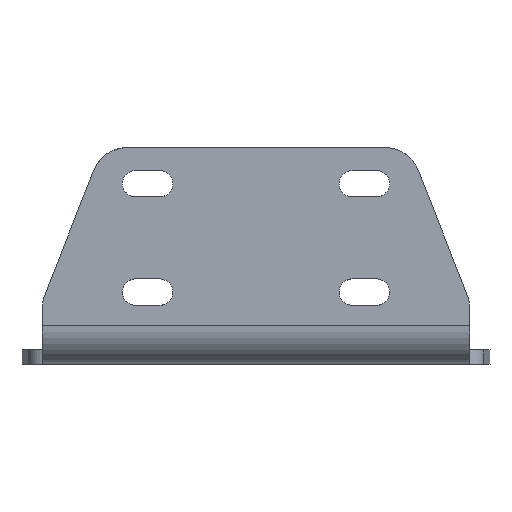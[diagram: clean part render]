
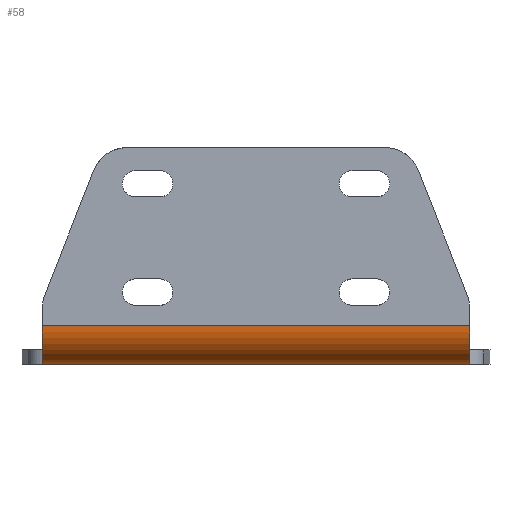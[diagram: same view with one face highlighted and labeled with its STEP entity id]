
A CAD part, front view. The second image highlights one B-rep face of the part: STEP entity #58.
In plain terms, the highlighted cylindrical face has radius 16 mm (diameter 32 mm), a partial arc.
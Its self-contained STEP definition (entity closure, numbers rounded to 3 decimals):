
#58=ADVANCED_FACE('',(#148),#1279,.T.);
#148=FACE_OUTER_BOUND('',#230,.T.);
#230=EDGE_LOOP('',(#526,#527,#528,#529));
#526=ORIENTED_EDGE('',*,*,#819,.T.);
#527=ORIENTED_EDGE('',*,*,#687,.T.);
#528=ORIENTED_EDGE('',*,*,#821,.F.);
#529=ORIENTED_EDGE('',*,*,#820,.T.);
#687=EDGE_CURVE('',#1108,#1109,#991,.T.);
#819=EDGE_CURVE('',#1198,#1108,#962,.T.);
#820=EDGE_CURVE('',#1194,#1198,#1057,.T.);
#821=EDGE_CURVE('',#1194,#1109,#963,.T.);
#962=(
BOUNDED_CURVE()
B_SPLINE_CURVE(2,(#2144,#2145,#2146),.UNSPECIFIED.,.F.,.F.)
B_SPLINE_CURVE_WITH_KNOTS((3,3),(-25.133,0.),.UNSPECIFIED.)
CURVE()
GEOMETRIC_REPRESENTATION_ITEM()
RATIONAL_B_SPLINE_CURVE((1.,0.707,1.))
REPRESENTATION_ITEM('')
);
#963=(
BOUNDED_CURVE()
B_SPLINE_CURVE(2,(#2149,#2150,#2151),.UNSPECIFIED.,.F.,.F.)
B_SPLINE_CURVE_WITH_KNOTS((3,3),(0.,25.133),.UNSPECIFIED.)
CURVE()
GEOMETRIC_REPRESENTATION_ITEM()
RATIONAL_B_SPLINE_CURVE((1.,0.707,1.))
REPRESENTATION_ITEM('')
);
#991=B_SPLINE_CURVE_WITH_KNOTS('',1,(#1770,#1771),.UNSPECIFIED.,.F.,.F.,
(2,2),(0.,177.6),.UNSPECIFIED.);
#1057=B_SPLINE_CURVE_WITH_KNOTS('',1,(#2147,#2148),.UNSPECIFIED.,.F.,.F.,
(2,2),(-177.6,0.),.UNSPECIFIED.);
#1108=VERTEX_POINT('',#1630);
#1109=VERTEX_POINT('',#1631);
#1194=VERTEX_POINT('',#1716);
#1198=VERTEX_POINT('',#1720);
#1279=CYLINDRICAL_SURFACE('',#1450,16.);
#1450=AXIS2_PLACEMENT_3D('',#1600,#1525,$);
#1525=DIRECTION('',(-1.,0.,0.));
#1600=CARTESIAN_POINT('',(0.,-134.93,-186.4));
#1630=CARTESIAN_POINT('',(-88.8,-134.93,-202.4));
#1631=CARTESIAN_POINT('',(88.8,-134.93,-202.4));
#1716=CARTESIAN_POINT('',(88.8,-150.93,-186.4));
#1720=CARTESIAN_POINT('',(-88.8,-150.93,-186.4));
#1770=CARTESIAN_POINT('',(-88.8,-134.93,-202.4));
#1771=CARTESIAN_POINT('',(88.8,-134.93,-202.4));
#2144=CARTESIAN_POINT('',(-88.8,-150.93,-186.4));
#2145=CARTESIAN_POINT('',(-88.8,-150.93,-202.4));
#2146=CARTESIAN_POINT('',(-88.8,-134.93,-202.4));
#2147=CARTESIAN_POINT('',(88.8,-150.93,-186.4));
#2148=CARTESIAN_POINT('',(-88.8,-150.93,-186.4));
#2149=CARTESIAN_POINT('',(88.8,-150.93,-186.4));
#2150=CARTESIAN_POINT('',(88.8,-150.93,-202.4));
#2151=CARTESIAN_POINT('',(88.8,-134.93,-202.4));
